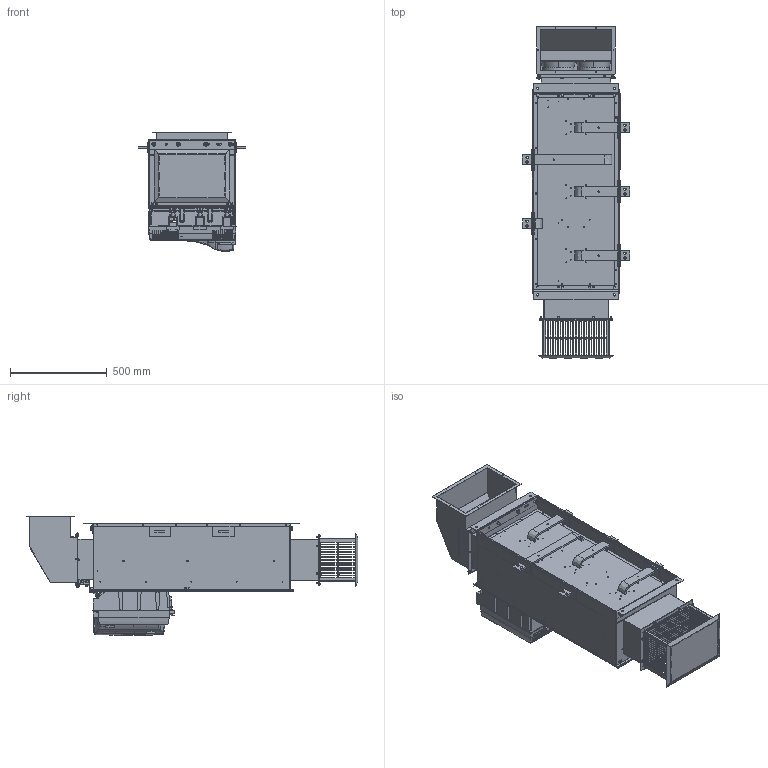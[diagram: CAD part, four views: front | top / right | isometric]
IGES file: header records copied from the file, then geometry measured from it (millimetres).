
Start section:  PTC IGES file: mentor_2d_iges.igs
Global section: file name: mentor_2d_iges.igs; native system: Pro/ENGINEER by Parametric Technology Corporation; preprocessor: 2007160; author: wongch01; organization: Unknown; date: 20100311.115402; units: millimetre
Bounding box: 553.55 x 1711.1 x 611.97 mm (x, y, z)
Surface area: 7858271 mm2
Topology: 1 solids, 340 shells, 1479 faces, 12122 edges, 10694 vertices
Faces by surface type: bspline 1479
